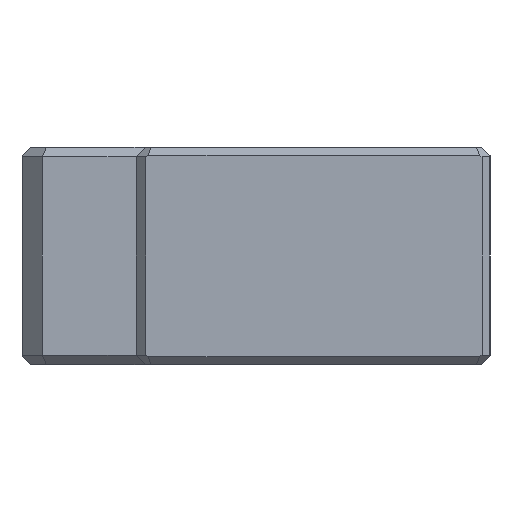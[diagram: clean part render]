
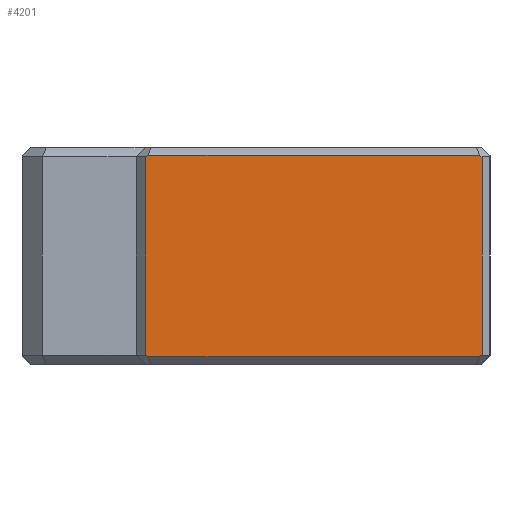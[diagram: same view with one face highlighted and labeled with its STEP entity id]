
A CAD part, left-side view. The second image highlights one B-rep face of the part: STEP entity #4201.
In plain terms, the highlighted planar face has unit normal (-1, 0, 0).
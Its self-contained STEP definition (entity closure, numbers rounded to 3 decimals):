
#87 = EDGE_CURVE ( 'NONE', #2727, #2315, #4569, .T. ) ;
#167 = DIRECTION ( 'NONE',  ( 0., 0.816, 0.577 ) ) ;
#201 = CARTESIAN_POINT ( 'NONE',  ( -30., -20.85, 9.15 ) ) ;
#205 = DIRECTION ( 'NONE',  ( 0., -0.816, -0.577 ) ) ;
#213 = CARTESIAN_POINT ( 'NONE',  ( -30., -22.957, 7.66 ) ) ;
#264 = VERTEX_POINT ( 'NONE', #4032 ) ;
#332 = FACE_OUTER_BOUND ( 'NONE', #4223, .T. ) ;
#454 = DIRECTION ( 'NONE',  ( 0., 0., -1. ) ) ;
#542 = EDGE_CURVE ( 'NONE', #1606, #3736, #4002, .T. ) ;
#669 = CARTESIAN_POINT ( 'NONE',  ( -30., -16.433, -12.173 ) ) ;
#814 = CARTESIAN_POINT ( 'NONE',  ( -30., 15.771, 5.119 ) ) ;
#840 = DIRECTION ( 'NONE',  ( 0., -0.816, 0.577 ) ) ;
#974 = EDGE_CURVE ( 'NONE', #3736, #2727, #3617, .T. ) ;
#1192 = EDGE_CURVE ( 'NONE', #2315, #3426, #3333, .T. ) ;
#1337 = EDGE_CURVE ( 'NONE', #3426, #5014, #3217, .T. ) ;
#1365 = CARTESIAN_POINT ( 'NONE',  ( -30., -20.85, -9.05 ) ) ;
#1602 = LINE ( 'NONE', #669, #1616 ) ;
#1606 = VERTEX_POINT ( 'NONE', #2493 ) ;
#1616 = VECTOR ( 'NONE', #3161, 1000. ) ;
#1993 = DIRECTION ( 'NONE',  ( 0., 1., 0. ) ) ;
#2065 = EDGE_CURVE ( 'NONE', #4405, #264, #2438, .T. ) ;
#2136 = VECTOR ( 'NONE', #167, 1000. ) ;
#2158 = LINE ( 'NONE', #3760, #2136 ) ;
#2232 = CARTESIAN_POINT ( 'NONE',  ( -30., 10.07, -10.05 ) ) ;
#2244 = EDGE_CURVE ( 'NONE', #264, #1606, #2158, .T. ) ;
#2258 = DIRECTION ( 'NONE',  ( 0., 0., 1. ) ) ;
#2315 = VERTEX_POINT ( 'NONE', #4824 ) ;
#2438 = LINE ( 'NONE', #4774, #2450 ) ;
#2450 = VECTOR ( 'NONE', #1993, 1000. ) ;
#2493 = CARTESIAN_POINT ( 'NONE',  ( -30., 10.07, -9.05 ) ) ;
#2727 = VERTEX_POINT ( 'NONE', #4852 ) ;
#2879 = EDGE_CURVE ( 'NONE', #5014, #4405, #1602, .T. ) ;
#3036 = CARTESIAN_POINT ( 'NONE',  ( -30., -20.638, -9.2 ) ) ;
#3161 = DIRECTION ( 'NONE',  ( 0., 0.816, -0.577 ) ) ;
#3188 = VECTOR ( 'NONE', #454, 1000. ) ;
#3217 = LINE ( 'NONE', #4381, #3188 ) ;
#3300 = VECTOR ( 'NONE', #205, 1000. ) ;
#3333 = LINE ( 'NONE', #213, #3300 ) ;
#3357 = DIRECTION ( 'NONE',  ( 0., 0., 1. ) ) ;
#3362 = DIRECTION ( 'NONE',  ( -1., 0., 0. ) ) ;
#3426 = VERTEX_POINT ( 'NONE', #201 ) ;
#3473 = PLANE ( 'NONE',  #4845 ) ;
#3501 = CARTESIAN_POINT ( 'NONE',  ( -30., -21.58, -9.95 ) ) ;
#3580 = VECTOR ( 'NONE', #840, 1000. ) ;
#3617 = LINE ( 'NONE', #814, #3580 ) ;
#3736 = VERTEX_POINT ( 'NONE', #4809 ) ;
#3760 = CARTESIAN_POINT ( 'NONE',  ( -30., -5.22, -19.862 ) ) ;
#3987 = VECTOR ( 'NONE', #2258, 1000. ) ;
#4002 = LINE ( 'NONE', #2232, #3987 ) ;
#4013 = ORIENTED_EDGE ( 'NONE', *, *, #2879, .F. ) ;
#4015 = ORIENTED_EDGE ( 'NONE', *, *, #1337, .F. ) ;
#4019 = ORIENTED_EDGE ( 'NONE', *, *, #1192, .F. ) ;
#4028 = ORIENTED_EDGE ( 'NONE', *, *, #87, .F. ) ;
#4032 = CARTESIAN_POINT ( 'NONE',  ( -30., 9.858, -9.2 ) ) ;
#4033 = ORIENTED_EDGE ( 'NONE', *, *, #974, .F. ) ;
#4039 = ORIENTED_EDGE ( 'NONE', *, *, #542, .F. ) ;
#4054 = ORIENTED_EDGE ( 'NONE', *, *, #2244, .F. ) ;
#4062 = ORIENTED_EDGE ( 'NONE', *, *, #2065, .F. ) ;
#4201 = ADVANCED_FACE ( 'NONE', ( #332 ), #3473, .T. ) ;
#4223 = EDGE_LOOP ( 'NONE', ( #4013, #4015, #4019, #4028, #4033, #4039, #4054, #4062 ) ) ;
#4381 = CARTESIAN_POINT ( 'NONE',  ( -30., -20.85, 10.15 ) ) ;
#4405 = VERTEX_POINT ( 'NONE', #3036 ) ;
#4569 = LINE ( 'NONE', #4787, #4575 ) ;
#4575 = VECTOR ( 'NONE', #4749, 1000. ) ;
#4749 = DIRECTION ( 'NONE',  ( 0., -1., 0. ) ) ;
#4774 = CARTESIAN_POINT ( 'NONE',  ( -30., -21.7, -9.2 ) ) ;
#4787 = CARTESIAN_POINT ( 'NONE',  ( -30., 0., 9.3 ) ) ;
#4809 = CARTESIAN_POINT ( 'NONE',  ( -30., 10.07, 9.15 ) ) ;
#4824 = CARTESIAN_POINT ( 'NONE',  ( -30., -20.638, 9.3 ) ) ;
#4845 = AXIS2_PLACEMENT_3D ( 'NONE', #3501, #3362, #3357 ) ;
#4852 = CARTESIAN_POINT ( 'NONE',  ( -30., 9.858, 9.3 ) ) ;
#5014 = VERTEX_POINT ( 'NONE', #1365 ) ;
